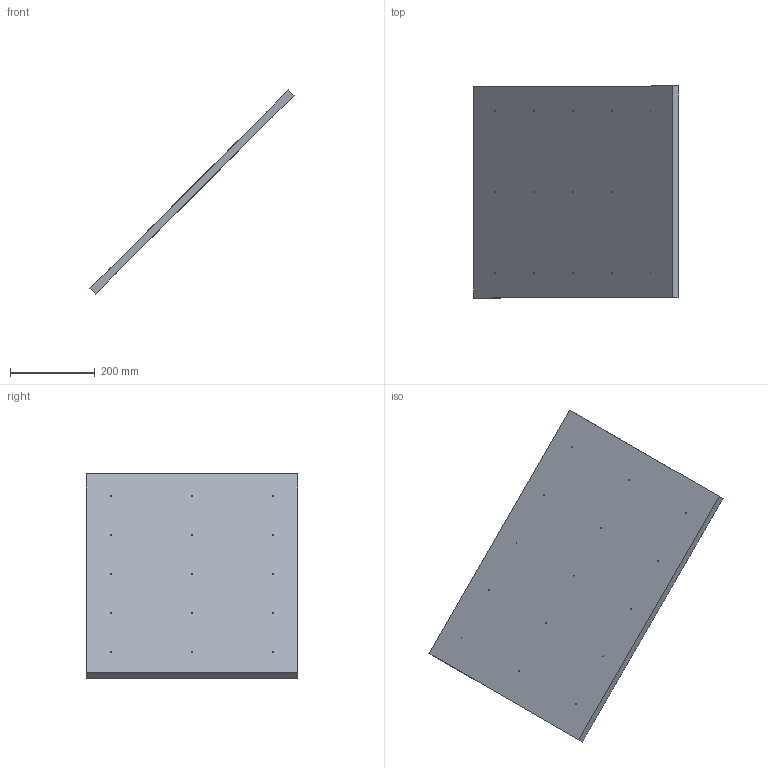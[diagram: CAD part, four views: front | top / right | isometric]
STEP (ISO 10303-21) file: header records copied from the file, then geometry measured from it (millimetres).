
FILE_DESCRIPTION(('Open CASCADE Model'),'2;1');
FILE_NAME('Open CASCADE Shape Model','2026-09-24T15:34:07',('Author'),( 'Open CASCADE'),'Open CASCADE STEP processor 7.9','Open CASCADE 7.9' ,'Unknown');
FILE_SCHEMA(('AUTOMOTIVE_DESIGN { 1 0 10303 214 1 1 1 1 }'));
Length unit declared in the file: millimetre
Products named in the file (1): Open CASCADE STEP translator 7.9 5
Bounding box: 482 x 500 x 482 mm (x, y, z)
Volume: 5971533.1 mm3; surface area: 707515.7 mm2
Topology: 1 solids, 1 shells, 21 faces, 57 edges, 38 vertices
Faces by surface type: cylinder 15, plane 6
Full cylindrical faces by diameter (mm): 2.5 x15
Entity records: 1537 total; most frequent: CARTESIAN_POINT 321, DIRECTION 230, ORIENTED_EDGE 114, PCURVE 114, DEFINITIONAL_REPRESENTATION 114, LINE 111, VECTOR 111, EDGE_CURVE 57
